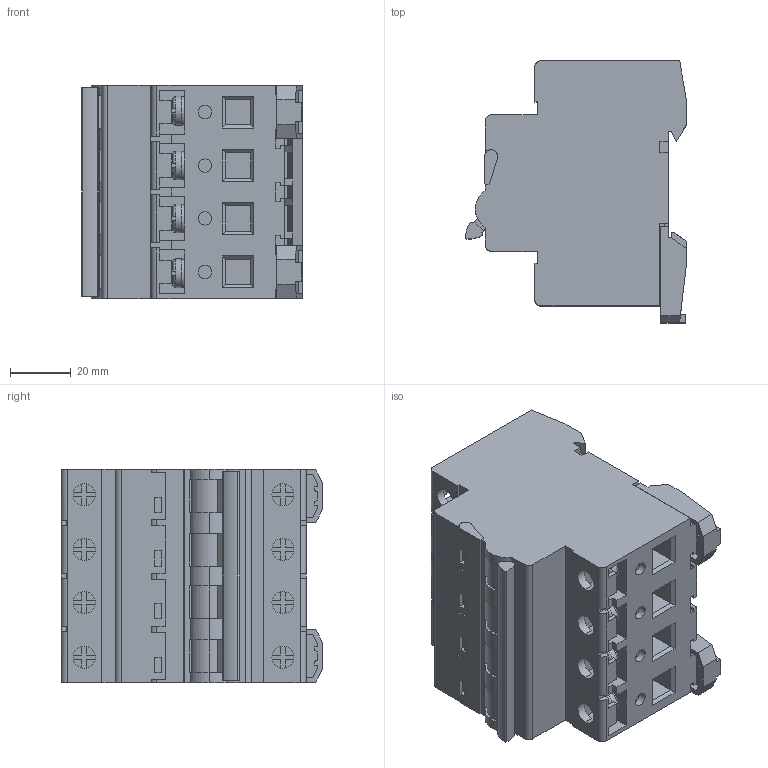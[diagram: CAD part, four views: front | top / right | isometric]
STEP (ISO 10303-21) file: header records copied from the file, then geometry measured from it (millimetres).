
FILE_DESCRIPTION (( 'STEP AP214' ), '1' );
FILE_NAME ('Krachtgroep.STEP', '2025-07-29T13:08:26', ( '' ), ( '' ), 'SwSTEP 2.0', 'SolidWorks 2025', '' );
FILE_SCHEMA (( 'AUTOMOTIVE_DESIGN' ));
Length unit declared in the file: millimetre
Products named in the file (3): CAD #4; Krachtgroep; Lipje voor krachtgroep
Assembly tree (3 placements, depth 2):
  Krachtgroep
    CAD #4
    Lipje voor krachtgroep  x2
Bounding box: 72.86 x 86.35 x 70.3 mm (x, y, z)
Volume: 294953.2 mm3; surface area: 50777.8 mm2
Topology: 13 solids, 13 shells, 807 faces, 2156 edges, 1390 vertices
Faces by surface type: plane 658, cylinder 101, torus 48
Entity records: 22790 total; most frequent: CARTESIAN_POINT 4406, ORIENTED_EDGE 3842, DIRECTION 3663, EDGE_CURVE 1921, LINE 1521, VECTOR 1521, VERTEX_POINT 1234, AXIS2_PLACEMENT_3D 1071
